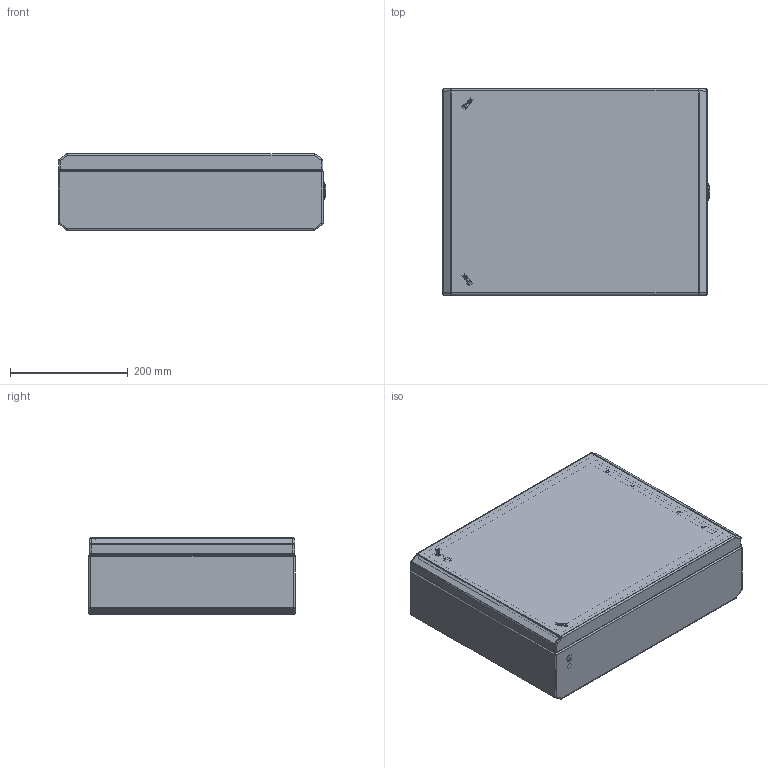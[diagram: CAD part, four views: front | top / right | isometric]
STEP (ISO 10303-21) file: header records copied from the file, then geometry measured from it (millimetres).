
FILE_DESCRIPTION (( 'STEP AP203' ), '1' );
FILE_NAME ('BK43A-COM.step', '2023-09-19T13:19:44', ( '' ), ( '' ), 'SwSTEP 2.0', 'SolidWorks 2021', '' );
FILE_SCHEMA (( 'CONFIG_CONTROL_DESIGN' ));
Length unit declared in the file: millimetre
Products named in the file (19): LOGO_ILINOX; PRM615TL316; 1000-277-01PI^1000-u183_ SG215S_Assiemi Box serie BK33-BK75M; 1000-101-GPF_GPD_1^ 1000-U134_ SG215S_Assiemi Box serie BK33-BK75M; 1000-156-01^1000-u183_ SG215S_Assiemi Box serie BK33-BK75M; Staffa Serraggio Box BK_SSBKH350; OLD-ADMT_ADMT; Guarnizione Schiumata 13x6.5_GBK43-GBK43M;  SG215S^Assiemi Box serie BK33-BK75M_Chiusura_BASSO; Porte Box BK33-BK75M_POBK43; 1000-02-RA_1^ 1000-U134_ SG215S_Assiemi Box serie BK33-BK75M; Fasciame FABK33- FABK75M_FABK43; Scarpetta Box serie BK; 1000-u183^ SG215S_Assiemi Box serie BK33-BK75M; 1000-24^1000-u183_ SG215S_Assiemi Box serie BK33-BK75M; 1000-03-PG^1000-u183_ SG215S_Assiemi Box serie BK33-BK75M;  1000-U134^ SG215S_Assiemi Box serie BK33-BK75M; BK43A-COM; Parte7^ SG215S_Assiemi Box serie BK33-BK75M
Assembly tree (23 placements, depth 4):
  BK43A-COM
    Fasciame FABK33- FABK75M_FABK43
    Porte Box BK33-BK75M_POBK43
    Guarnizione Schiumata 13x6.5_GBK43-GBK43M
    Staffa Serraggio Box BK_SSBKH350
    Scarpetta Box serie BK
     SG215S^Assiemi Box serie BK33-BK75M_Chiusura_BASSO
       1000-U134^ SG215S_Assiemi Box serie BK33-BK75M
        1000-101-GPF_GPD_1^ 1000-U134_ SG215S_Assiemi Box serie BK33-BK75M
        1000-02-RA_1^ 1000-U134_ SG215S_Assiemi Box serie BK33-BK75M
      1000-u183^ SG215S_Assiemi Box serie BK33-BK75M
        1000-156-01^1000-u183_ SG215S_Assiemi Box serie BK33-BK75M
        1000-03-PG^1000-u183_ SG215S_Assiemi Box serie BK33-BK75M
        1000-24^1000-u183_ SG215S_Assiemi Box serie BK33-BK75M
        1000-277-01PI^1000-u183_ SG215S_Assiemi Box serie BK33-BK75M
      Parte7^ SG215S_Assiemi Box serie BK33-BK75M
    OLD-ADMT_ADMT  x2
    LOGO_ILINOX  x2
    PRM615TL316  x4
Bounding box: 454 x 350 x 130.1 mm (x, y, z)
Volume: 964164.1 mm3; surface area: 1206557.2 mm2
Topology: 41 solids, 42 shells, 1025 faces, 2411 edges, 1474 vertices
Faces by surface type: plane 534, cylinder 362, sphere 42, cone 40, bspline 31, torus 16
Entity records: 30274 total; most frequent: CARTESIAN_POINT 7339, DIRECTION 4537, ORIENTED_EDGE 4171, EDGE_CURVE 2089, AXIS2_PLACEMENT_3D 1690, VERTEX_POINT 1292, LINE 1157, VECTOR 1157
